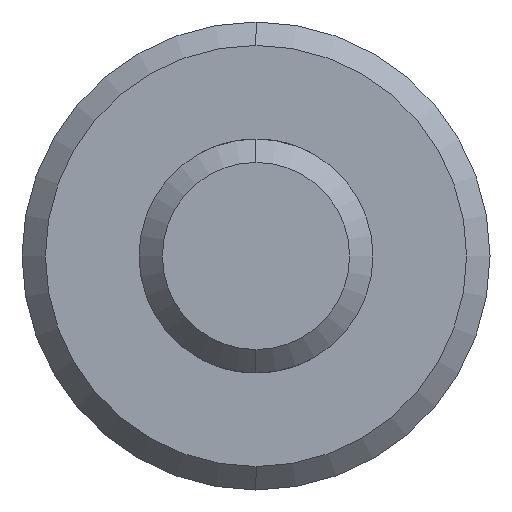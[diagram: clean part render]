
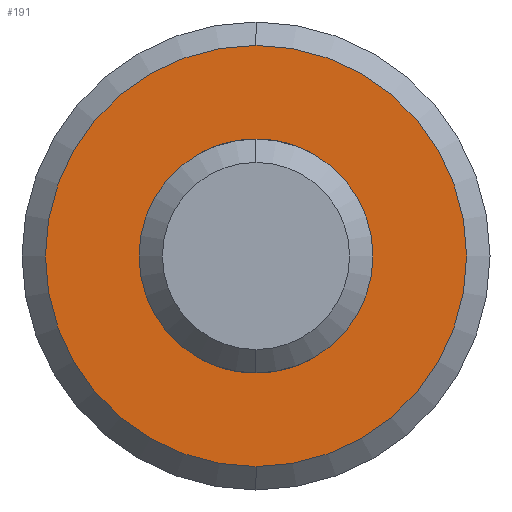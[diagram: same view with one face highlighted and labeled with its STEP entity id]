
A CAD part, left-side view. The second image highlights one B-rep face of the part: STEP entity #191.
In plain terms, the highlighted planar face has unit normal (-1, 0, 0).
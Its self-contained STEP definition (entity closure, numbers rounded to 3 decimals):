
#7 = ORIENTED_EDGE ( 'NONE', *, *, #308, .T. ) ;
#8 = EDGE_CURVE ( 'NONE', #253, #93, #327, .T. ) ;
#24 = DIRECTION ( 'NONE',  ( -1., 0., 0. ) ) ;
#26 = AXIS2_PLACEMENT_3D ( 'NONE', #197, #24, #382 ) ;
#35 = AXIS2_PLACEMENT_3D ( 'NONE', #166, #509, #462 ) ;
#37 = PLANE ( 'NONE',  #325 ) ;
#39 = CARTESIAN_POINT ( 'NONE',  ( 0., 0., 0. ) ) ;
#41 = DIRECTION ( 'NONE',  ( 0., 0., -1. ) ) ;
#42 = CARTESIAN_POINT ( 'NONE',  ( 0., 2.5, 0. ) ) ;
#48 = DIRECTION ( 'NONE',  ( -1., 0., 0. ) ) ;
#58 = AXIS2_PLACEMENT_3D ( 'NONE', #39, #242, #503 ) ;
#81 = CARTESIAN_POINT ( 'NONE',  ( 0., 0., -4.5 ) ) ;
#88 = DIRECTION ( 'NONE',  ( 1., 0., 0. ) ) ;
#93 = VERTEX_POINT ( 'NONE', #340 ) ;
#96 = AXIS2_PLACEMENT_3D ( 'NONE', #205, #48, #319 ) ;
#107 = EDGE_LOOP ( 'NONE', ( #394, #239 ) ) ;
#132 = CIRCLE ( 'NONE', #58, 2.5 ) ;
#166 = CARTESIAN_POINT ( 'NONE',  ( 0., 0., 0. ) ) ;
#186 = CARTESIAN_POINT ( 'NONE',  ( 0., 0., -2.5 ) ) ;
#191 = ADVANCED_FACE ( 'NONE', ( #209, #423 ), #37, .F. ) ;
#197 = CARTESIAN_POINT ( 'NONE',  ( 0., 0., 0. ) ) ;
#205 = CARTESIAN_POINT ( 'NONE',  ( 0., 0., 0. ) ) ;
#209 = FACE_OUTER_BOUND ( 'NONE', #387, .T. ) ;
#228 = VERTEX_POINT ( 'NONE', #186 ) ;
#239 = ORIENTED_EDGE ( 'NONE', *, *, #287, .F. ) ;
#242 = DIRECTION ( 'NONE',  ( -1., 0., 0. ) ) ;
#253 = VERTEX_POINT ( 'NONE', #81 ) ;
#266 = CIRCLE ( 'NONE', #26, 2.5 ) ;
#287 = EDGE_CURVE ( 'NONE', #228, #443, #266, .T. ) ;
#308 = EDGE_CURVE ( 'NONE', #93, #253, #372, .T. ) ;
#315 = EDGE_CURVE ( 'NONE', #443, #228, #132, .T. ) ;
#317 = ORIENTED_EDGE ( 'NONE', *, *, #8, .T. ) ;
#319 = DIRECTION ( 'NONE',  ( 0., 0., -1. ) ) ;
#325 = AXIS2_PLACEMENT_3D ( 'NONE', #42, #88, #41 ) ;
#327 = CIRCLE ( 'NONE', #35, 4.5 ) ;
#340 = CARTESIAN_POINT ( 'NONE',  ( 0., 0., 4.5 ) ) ;
#372 = CIRCLE ( 'NONE', #96, 4.5 ) ;
#382 = DIRECTION ( 'NONE',  ( 0., 0., 1. ) ) ;
#387 = EDGE_LOOP ( 'NONE', ( #317, #7 ) ) ;
#394 = ORIENTED_EDGE ( 'NONE', *, *, #315, .F. ) ;
#423 = FACE_BOUND ( 'NONE', #107, .T. ) ;
#443 = VERTEX_POINT ( 'NONE', #455 ) ;
#455 = CARTESIAN_POINT ( 'NONE',  ( 0., 0., 2.5 ) ) ;
#462 = DIRECTION ( 'NONE',  ( 0., 0., -1. ) ) ;
#503 = DIRECTION ( 'NONE',  ( 0., 0., 1. ) ) ;
#509 = DIRECTION ( 'NONE',  ( -1., 0., 0. ) ) ;
